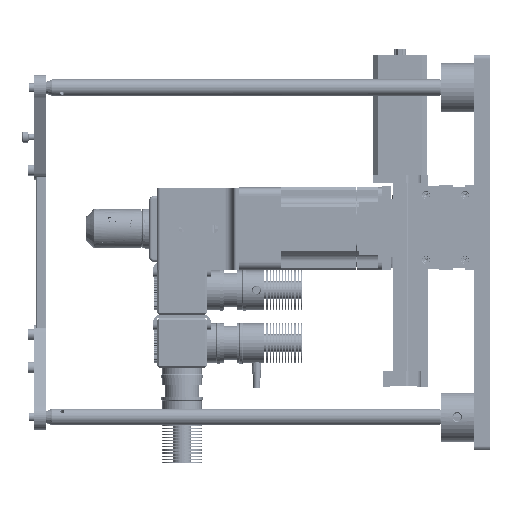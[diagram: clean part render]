
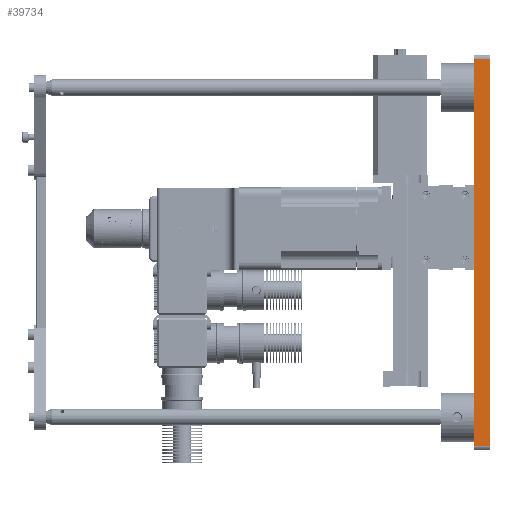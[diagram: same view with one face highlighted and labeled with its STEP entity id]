
A CAD part, left-side view. The second image highlights one B-rep face of the part: STEP entity #39734.
In plain terms, the highlighted planar face has unit normal (-1, 0, 0).
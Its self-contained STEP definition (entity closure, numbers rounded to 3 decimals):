
#39734 = ADVANCED_FACE ( 'NONE', ( #291538 ), #179857, .F. ) ;
#69872 = VECTOR ( 'NONE', #652902, 1000. ) ;
#71782 = EDGE_CURVE ( 'NONE', #374402, #517516, #601955, .T. ) ;
#116254 = DIRECTION ( 'NONE',  ( 0., 0., -1. ) ) ;
#179857 = PLANE ( 'NONE',  #655961 ) ;
#189438 = ORIENTED_EDGE ( 'NONE', *, *, #634587, .F. ) ;
#191606 = CARTESIAN_POINT ( 'NONE',  ( -152.4, 12.7, 149.4 ) ) ;
#227804 = EDGE_CURVE ( 'NONE', #729939, #665700, #432888, .T. ) ;
#231835 = CARTESIAN_POINT ( 'NONE',  ( -152.4, 0.3, -149.4 ) ) ;
#272039 = EDGE_LOOP ( 'NONE', ( #492803, #445153, #189438, #306721 ) ) ;
#287089 = VECTOR ( 'NONE', #482637, 1000. ) ;
#291538 = FACE_OUTER_BOUND ( 'NONE', #272039, .T. ) ;
#306721 = ORIENTED_EDGE ( 'NONE', *, *, #71782, .T. ) ;
#309081 = VECTOR ( 'NONE', #318495, 1000. ) ;
#318495 = DIRECTION ( 'NONE',  ( 0., -1., 0. ) ) ;
#351867 = CARTESIAN_POINT ( 'NONE',  ( -152.4, 12.4, 149.4 ) ) ;
#370245 = LINE ( 'NONE', #556773, #309081 ) ;
#374402 = VERTEX_POINT ( 'NONE', #520795 ) ;
#389329 = VECTOR ( 'NONE', #553273, 1000. ) ;
#417189 = CARTESIAN_POINT ( 'NONE',  ( -152.4, 0.3, 149.4 ) ) ;
#432888 = LINE ( 'NONE', #589101, #69872 ) ;
#445153 = ORIENTED_EDGE ( 'NONE', *, *, #227804, .T. ) ;
#482637 = DIRECTION ( 'NONE',  ( 0., 0., -1. ) ) ;
#492803 = ORIENTED_EDGE ( 'NONE', *, *, #687351, .T. ) ;
#517516 = VERTEX_POINT ( 'NONE', #621921 ) ;
#520795 = CARTESIAN_POINT ( 'NONE',  ( -152.4, 12.4, 149.4 ) ) ;
#553273 = DIRECTION ( 'NONE',  ( 0., -1., 0. ) ) ;
#556773 = CARTESIAN_POINT ( 'NONE',  ( -152.4, 12.7, -149.4 ) ) ;
#589101 = CARTESIAN_POINT ( 'NONE',  ( -152.4, 0.3, 149.4 ) ) ;
#593441 = DIRECTION ( 'NONE',  ( 1., 0., 0. ) ) ;
#601955 = LINE ( 'NONE', #351867, #287089 ) ;
#613008 = LINE ( 'NONE', #191606, #389329 ) ;
#621921 = CARTESIAN_POINT ( 'NONE',  ( -152.4, 12.4, -149.4 ) ) ;
#634587 = EDGE_CURVE ( 'NONE', #374402, #665700, #613008, .T. ) ;
#652902 = DIRECTION ( 'NONE',  ( 0., 0., 1. ) ) ;
#655961 = AXIS2_PLACEMENT_3D ( 'NONE', #772607, #593441, #116254 ) ;
#665700 = VERTEX_POINT ( 'NONE', #417189 ) ;
#687351 = EDGE_CURVE ( 'NONE', #517516, #729939, #370245, .T. ) ;
#729939 = VERTEX_POINT ( 'NONE', #231835 ) ;
#772607 = CARTESIAN_POINT ( 'NONE',  ( -152.4, 12.7, 149.4 ) ) ;
